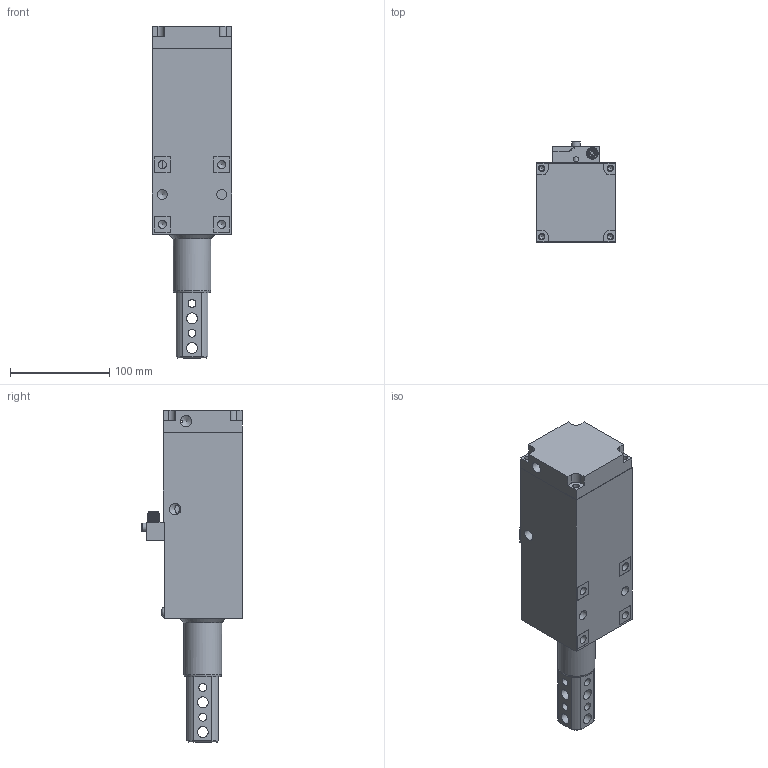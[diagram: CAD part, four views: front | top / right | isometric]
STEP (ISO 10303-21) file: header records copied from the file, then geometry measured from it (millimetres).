
FILE_DESCRIPTION(/* description */ (''),/* implementation_level */ '2;1');
FILE_NAME(/* name */ 'M:\cad\PRODUCT\LSA\LSA - 95\STEP\LSA-95\50mm Stroke\LSA-95 50mm Stroke - Extend.stp',/* time_stamp */ '2018-04-20T08:55:15-04:00',/* author */ ('Tyler'),/* organization */ (''),/* preprocessor_version */ 'ST-DEVELOPER v17',/* originating_system */ 'Autodesk Inventor 2018',/* authorisation */ '');
FILE_SCHEMA (('AUTOMOTIVE_DESIGN { 1 0 10303 214 3 1 1 }'));
Length unit declared in the file: inch
Products named in the file (2): LSA-95  25_50 Stroke - Stripped for STEP; LSA-95  25_50 Stroke - Stripped for STEP_50 Extend
Assembly tree (1 placements, depth 2):
  LSA-95  25_50 Stroke - Stripped for STEP
    LSA-95  25_50 Stroke - Stripped for STEP_50 Extend
Bounding box: 80.01 x 101.81 x 335.06 mm (x, y, z)
Volume: 1007460.8 mm3; surface area: 189396.2 mm2
Topology: 2 solids, 2 shells, 410 faces, 1205 edges, 815 vertices
Faces by surface type: plane 192, cylinder 156, cone 54, torus 8
Full cylindrical faces by diameter (mm): 1 x8, 1.191 x1, 2 x2, 2.383 x2, 3.175 x2, 3.264 x6, 3.302 x1, 4.928 x4, 5 x1, 5.3 x4, 6.35 x3, 6.5 x4, 8.019 x8, 8.3 x1, 8.382 x4, 8.5 x1, 9.5 x1, 10.02 x2, 10.16 x1, 10.312 x1, 10.5 x1, 10.998 x8, 11.455 x5, 11.76 x1, 11.811 x1, 12 x1, 15.875 x2, 17.78 x1, 22.86 x1, 38.087 x1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
Entity records: 14961 total; most frequent: CARTESIAN_POINT 3022, DIRECTION 2482, ORIENTED_EDGE 2376, EDGE_CURVE 1188, AXIS2_PLACEMENT_3D 943, VERTEX_POINT 815, LINE 596, VECTOR 596
